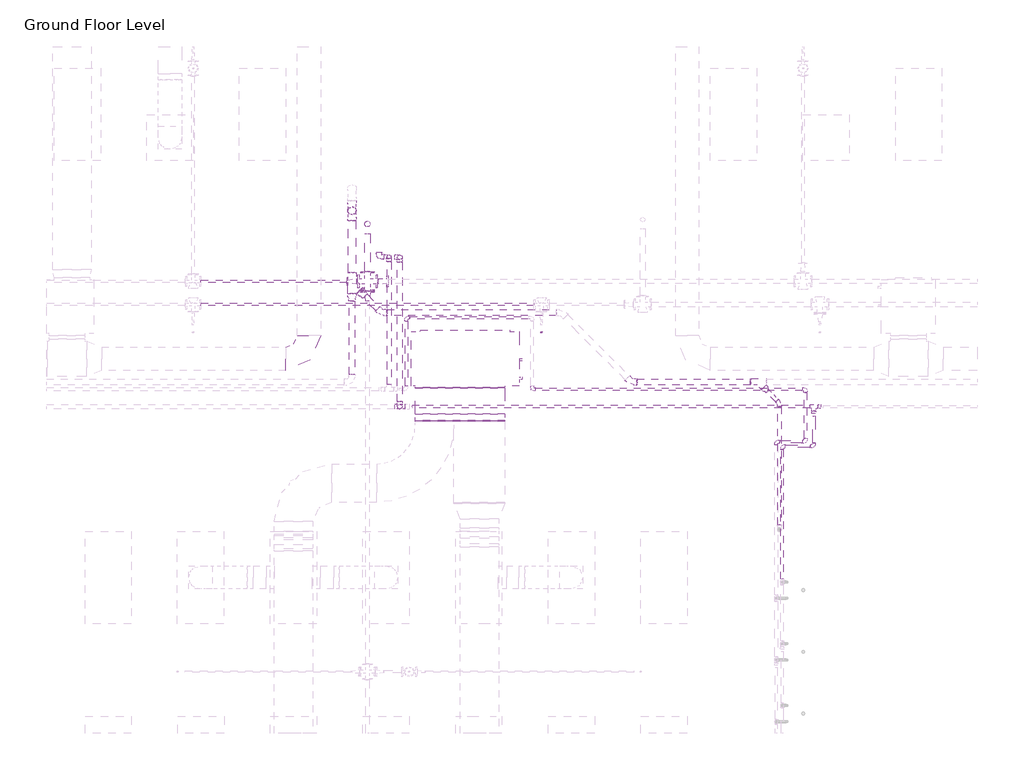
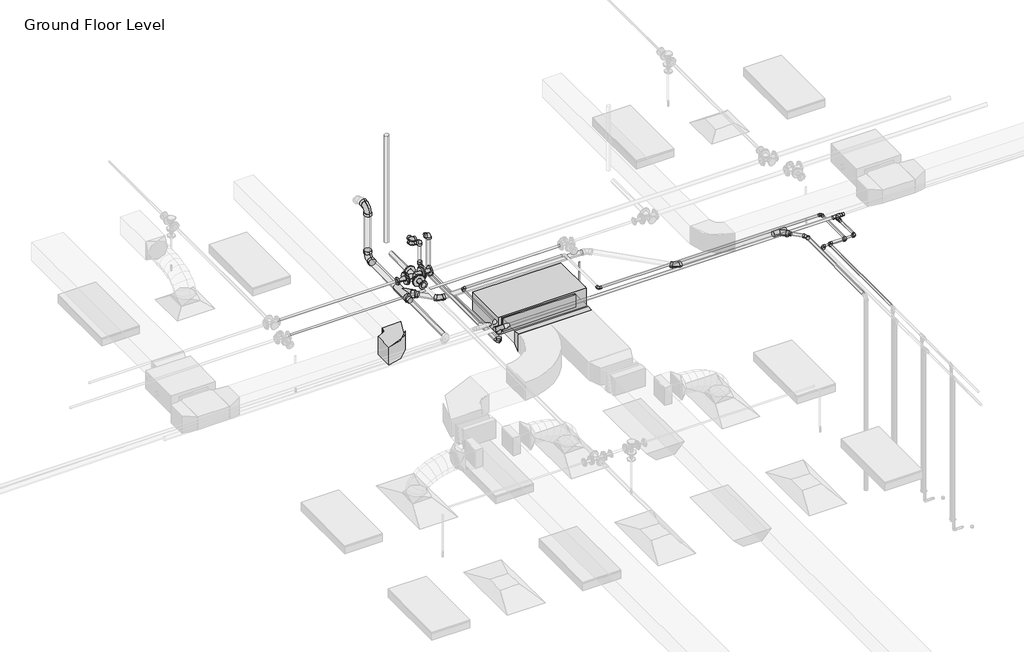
# One storey, part 51 of 68: 32 pipe fittings, 28 pipe segments, 3 duct fittings, 2 duct segments, 1 fire suppression terminal, 1 proxy.
"""IFC4 building model written with IfcOpenShell, lengths in millimetres."""

from ifc_helpers import new_model, si_unit, point, frame, frame_2d, origin, place, context, project, spatial, polyline, circle_curve, trimmed, segment, composite_curve, outline, extrude, transform, mapped, element, save
from components import fcu_daikin_iu_5a1bd61d, m_rectangular_elbow_radius_1_w_618da153, m_rectangular_transition_angle_45_degree_2e6f116c, m_rectangular_transition_angle_45_degree_bb273bf1, m_sprinkler_pendent_15_mm_pendent_06fcbd8e, m_bend_pvc_sch_40_dwv_standard_9e3ead78, m_bend_pvc_sch_40_dwv_standard_3e306cb9, m_bend_pvc_sch_40_dwv_standard_bd716fa2, m_bend_pvc_sch_40_dwv_standard_fbb643c2, m_bend_pvc_sch_40_dwv_standard_bfb77a87, m_cross_flanged_cs_class_150_standard_72237f6b, m_reducer_flanged_cs_class_150_standard_50093ec8, m_reducer_flanged_cs_class_150_standard_fb6801e4, m_reducer_flanged_cs_class_150_standard_aac2962f, m_reducer_pvc_sch_40_dwv_standard_daff2b06, m_reducer_pvc_sch_40_dwv_standard_93e50943, m_tee_pvc_sch_40_standard_5dbb3026, m_tee_pvc_sch_40_standard_4c5b037c, standard_517a5a8d, standard_08ff6011, standard_d0d0b892, standard_cd25fed3, standard_57727813, standard_102e5625

model = new_model("IFC4")

# Units and contexts
model_context = context("Model", 3, world=origin())
ifc_project = project(units=[si_unit("LENGTHUNIT", "METRE", prefix="MILLI")], contexts=[model_context])

# Site, building, storey
site = spatial("IfcSite", under=ifc_project)
building = spatial("IfcBuilding", under=site)
storey = spatial("IfcBuildingStorey", under=building, Name="Ground Floor Level", Elevation=900.0)

# Proxy
placement = place(None, origin())
fcu_daikin_iu_shape = fcu_daikin_iu_5a1bd61d(model_context)
element("IfcBuildingElementProxy", 1, Name="FCU-DAIKIN IU : 12.9kW, 230V/50Hz/1Ph", ObjectType="FCU-DAIKIN IU : 12.9kW, 230V/50Hz/1Ph", at=placement, inside=storey, context=model_context, shape_type="MappedRepresentation", body=[
    mapped(fcu_daikin_iu_shape, transform((-4715.1910789, 14069.8153534, 3984.0925223), x_axis=(1.0, 0.0, 0.0), y_axis=(0.0, 1.0, 0.0), z_axis=(0.0, 0.0, 1.0))),
])

# Duct fittings
m_rectangular_elbow_radius_1_w_shape = m_rectangular_elbow_radius_1_w_618da153(model_context)
element("IfcDuctFitting", 2, ObjectType="M_Rectangular Elbow - Radius : 1 W", at=placement, inside=storey, context=model_context, shape_type="MappedRepresentation", body=[
    mapped(m_rectangular_elbow_radius_1_w_shape, transform((-6737.2327605, 14069.8153534, 4075.2872564), x_axis=(1.0, 0.0, 0.0), y_axis=(0.0, 1.0, 0.0), z_axis=(0.0, 0.0, 1.0))),
])
m_rectangular_transition_angle_45_degree_shape = m_rectangular_transition_angle_45_degree_2e6f116c(model_context)
element("IfcDuctFitting", 3, ObjectType="M_Rectangular Transition - Angle : 45 Degree", at=placement, inside=storey, context=model_context, shape_type="MappedRepresentation", body=[
    mapped(m_rectangular_transition_angle_45_degree_shape, transform((-4778.6910789, 13694.4153534, 4150.0050223), x_axis=(0.0, -1.0, 0.0), y_axis=(1.0, 0.0, 0.0), z_axis=(0.0, 0.0, 1.0))),
])
m_rectangular_transition_angle_45_degree_2_shape = m_rectangular_transition_angle_45_degree_bb273bf1(model_context)
element("IfcDuctFitting", 4, ObjectType="M_Rectangular Transition - Angle : 45 Degree", at=placement, inside=storey, context=model_context, shape_type="MappedRepresentation", body=[
    mapped(m_rectangular_transition_angle_45_degree_2_shape, transform((-4778.6910789, 13354.5699657, 4150.0028095), x_axis=(0.0, -0.9999999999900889, -4.452214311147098e-06), y_axis=(1.0, 0.0, 0.0), z_axis=(0.0, -4.452214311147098e-06, 0.9999999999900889))),
])

# Duct segments
element("IfcDuctSegment", 5, ObjectType="Radius Elbows / Taps", at=placement, inside=storey, context=model_context, shape_type="SweptSolid", body=[
    extrude(outline(polyline([(-5359.6910789, 13694.083399), (-4197.6910789, 13694.083399), (-4197.6910789, 13354.5699657), (-5359.6910789, 13354.5699657), (-5359.6910789, 13694.083399)])), frame((0.0, 0.0, 4043.0050223), z_axis=(0.0, 0.0, 1.0), x_axis=(1.0, 0.0, 0.0)), (0.0, 0.0, 1.0), 214.0),
])
element("IfcDuctSegment", 6, ObjectType="Radius Elbows / Taps", at=placement, inside=storey, context=model_context, shape_type="SweptSolid", body=[
    extrude(outline(polyline([(0.0, -1162.0), (0.0, 0.0), (9.0109299, 0.0), (9.0109299, -1162.0), (0.0, -1162.0)])), frame((-5359.6910789, 13259.4862791, 3957.1425391), z_axis=(0.0, -0.00047283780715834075, 0.9999998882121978), x_axis=(0.0, 0.9999998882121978, 0.00047283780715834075)), (0.0, 0.0, 1.0), 300.0),
])

# Fire suppression terminal
m_sprinkler_pendent_15_mm_pendent_shape = m_sprinkler_pendent_15_mm_pendent_06fcbd8e(model_context)
element("IfcFireSuppressionTerminal", 7, ObjectType="M_Sprinkler - Pendent : 15 mm Pendent", at=placement, inside=storey, context=model_context, shape_type="MappedRepresentation", body=[
    mapped(m_sprinkler_pendent_15_mm_pendent_shape, transform((-3723.9852405, 14413.1701264, 3650.0), x_axis=(1.0, 0.0, 0.0), y_axis=(0.0, 1.0, 0.0), z_axis=(0.0, 0.0, 1.0))),
])

# Pipe fittings
m_bend_pvc_sch_40_dwv_standard_shape = m_bend_pvc_sch_40_dwv_standard_9e3ead78(model_context)
element("IfcPipeFitting", 8, ObjectType="M_Bend - PVC - Sch 40 - DWV : Standard", at=placement, inside=storey, context=model_context, shape_type="MappedRepresentation", body=[
    mapped(m_bend_pvc_sch_40_dwv_standard_shape, transform((-2561.2921336, 13768.7316659, 4127.72349), x_axis=(0.7070931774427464, -0.7070575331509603, -0.009427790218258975), y_axis=(0.7070496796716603, 0.7071481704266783, -0.0047133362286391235), z_axis=(0.009999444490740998, -0.003333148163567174, 0.9999444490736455))),
])
m_bend_pvc_sch_40_dwv_standard_2_shape = m_bend_pvc_sch_40_dwv_standard_3e306cb9(model_context)
element("IfcPipeFitting", 9, ObjectType="M_Bend - PVC - Sch 40 - DWV : Standard", at=placement, inside=storey, context=model_context, shape_type="MappedRepresentation", body=[
    mapped(m_bend_pvc_sch_40_dwv_standard_2_shape, transform((-642.2357232, 13495.4654482, 4110.1731446), x_axis=(0.0, 0.9999500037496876, 0.009999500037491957), y_axis=(-0.9999912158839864, -4.191228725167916e-05, 0.004191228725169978), z_axis=(0.004191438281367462, -0.00999941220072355, 0.9999412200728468))),
])
m_bend_pvc_sch_40_dwv_standard_3_shape = m_bend_pvc_sch_40_dwv_standard_bd716fa2(model_context)
element("IfcPipeFitting", 10, ObjectType="M_Bend - PVC - Sch 40 - DWV : Standard", at=placement, inside=storey, context=model_context, shape_type="MappedRepresentation", body=[
    mapped(m_bend_pvc_sch_40_dwv_standard_3_shape, transform((-6179.1770144, 15988.8715849, 4179.1289206), x_axis=(0.0, 0.9999500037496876, 0.009999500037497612), y_axis=(0.0, -0.009999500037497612, 0.9999500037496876), z_axis=(1.0, 0.0, 0.0))),
])
m_bend_pvc_sch_40_dwv_standard_4_shape = m_bend_pvc_sch_40_dwv_standard_fbb643c2(model_context)
element("IfcPipeFitting", 11, ObjectType="M_Bend - PVC - Sch 40 - DWV : Standard", at=placement, inside=storey, context=model_context, shape_type="MappedRepresentation", body=[
    mapped(m_bend_pvc_sch_40_dwv_standard_4_shape, transform((-5796.171114, 14668.7334723, 4163.0722858), x_axis=(0.7069124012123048, -0.7071711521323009, -0.013557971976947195), y_axis=(0.7072304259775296, 0.7069828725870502, -0.0005851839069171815), z_axis=(0.009999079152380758, -0.00917493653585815, 0.999907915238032))),
])
m_bend_pvc_sch_40_dwv_standard_5_shape = m_bend_pvc_sch_40_dwv_standard_bfb77a87(model_context)
element("IfcPipeFitting", 12, ObjectType="M_Bend - PVC - Sch 40 - DWV : Standard", at=placement, inside=storey, context=model_context, shape_type="MappedRepresentation", body=[
    mapped(m_bend_pvc_sch_40_dwv_standard_5_shape, transform((-6179.1776394, 15988.874234, 5027.5258857), x_axis=(-4.882554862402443e-06, 2.069385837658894e-05, 0.9999999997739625), y_axis=(4.892659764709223e-08, 0.9999999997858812, -2.0693858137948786e-05), z_axis=(-0.9999999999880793, 4.8825558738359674e-08, -4.882555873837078e-06))),
])
m_cross_flanged_cs_class_150_standard_shape = m_cross_flanged_cs_class_150_standard_72237f6b(model_context)
element("IfcPipeFitting", 13, ObjectType="M_Cross - Flanged - CS - Class 150 : Standard", at=placement, inside=storey, context=model_context, shape_type="MappedRepresentation", body=[
    mapped(m_cross_flanged_cs_class_150_standard_shape, transform((-5978.130502, 15073.2009828, 4360.0), x_axis=(-1.0, 0.0, 0.0), y_axis=(0.0, -1.0, 0.0), z_axis=(0.0, 0.0, 1.0))),
])
m_reducer_flanged_cs_class_150_standard_shape = m_reducer_flanged_cs_class_150_standard_50093ec8(model_context)
element("IfcPipeFitting", 14, ObjectType="M_Reducer - Flanged - CS - Class 150 : Standard", at=placement, inside=storey, context=model_context, shape_type="MappedRepresentation", body=[
    mapped(m_reducer_flanged_cs_class_150_standard_shape, transform((-5851.130502, 15073.2009828, 4360.0), x_axis=(1.0, 0.0, 0.0), y_axis=(0.0, 1.0, 0.0), z_axis=(0.0, 0.0, 1.0))),
])
m_reducer_flanged_cs_class_150_standard_2_shape = m_reducer_flanged_cs_class_150_standard_fb6801e4(model_context)
element("IfcPipeFitting", 15, ObjectType="M_Reducer - Flanged - CS - Class 150 : Standard", at=placement, inside=storey, context=model_context, shape_type="MappedRepresentation", body=[
    mapped(m_reducer_flanged_cs_class_150_standard_2_shape, transform((-6105.130502, 15073.2009828, 4360.0), x_axis=(-1.0, 0.0, 0.0), y_axis=(0.0, -1.0, 0.0), z_axis=(0.0, 0.0, 1.0))),
])
m_reducer_flanged_cs_class_150_standard_3_shape = m_reducer_flanged_cs_class_150_standard_aac2962f(model_context)
element("IfcPipeFitting", 16, ObjectType="M_Reducer - Flanged - CS - Class 150 : Standard", at=placement, inside=storey, context=model_context, shape_type="MappedRepresentation", body=[
    mapped(m_reducer_flanged_cs_class_150_standard_3_shape, transform((-5978.130502, 14946.2009828, 4360.0), x_axis=(0.0, -1.0, 0.0), y_axis=(1.0, 0.0, 0.0), z_axis=(0.0, 0.0, 1.0))),
])
m_reducer_pvc_sch_40_dwv_standard_shape = m_reducer_pvc_sch_40_dwv_standard_daff2b06(model_context)
element("IfcPipeFitting", 17, ObjectType="M_Reducer - PVC - Sch 40 - DWV : Standard", at=placement, inside=storey, context=model_context, shape_type="MappedRepresentation", body=[
    mapped(m_reducer_pvc_sch_40_dwv_standard_shape, transform((-843.6840301, 13696.9036229, 4110.2439857), x_axis=(0.7070889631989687, -0.7070533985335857, -0.010034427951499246), y_axis=(0.707053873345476, 0.7071477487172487, -0.004108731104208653), z_axis=(0.010000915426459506, -0.004189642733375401, 0.9999412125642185))),
])
m_reducer_pvc_sch_40_dwv_standard_2_shape = m_reducer_pvc_sch_40_dwv_standard_93e50943(model_context)
element("IfcPipeFitting", 18, ObjectType="M_Reducer - PVC - Sch 40 - DWV : Standard", at=placement, inside=storey, context=model_context, shape_type="MappedRepresentation", body=[
    mapped(m_reducer_pvc_sch_40_dwv_standard_2_shape, transform((-6179.1770144, 14819.9179815, 4167.4393846), x_axis=(0.0, 0.9999500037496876, 0.009999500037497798), y_axis=(-1.0000000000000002, 0.0, 0.0), z_axis=(0.0, -0.009999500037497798, 0.9999500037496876))),
])
element("IfcPipeFitting", 19, ObjectType="M_Reducer - PVC - Sch 40 - DWV : Standard", at=placement, inside=storey, context=model_context, shape_type="MappedRepresentation", body=[
    mapped(m_reducer_pvc_sch_40_dwv_standard_2_shape, transform((-6010.7168995, 14883.3577879, 4167.1870895), x_axis=(-0.7069124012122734, 0.7071711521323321, 0.01355797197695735), y_axis=(-0.7072361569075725, -0.7069773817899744, -2.1519182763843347e-08), z_axis=(0.00958516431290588, -0.009588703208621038, 0.9999080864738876))),
])
m_tee_pvc_sch_40_standard_shape = m_tee_pvc_sch_40_standard_5dbb3026(model_context)
element("IfcPipeFitting", 20, ObjectType="M_Tee - PVC - Sch 40 : Standard", at=placement, inside=storey, context=model_context, shape_type="MappedRepresentation", body=[
    mapped(m_tee_pvc_sch_40_standard_shape, transform((-915.515686, 13768.7316659, 4111.2633618), x_axis=(-0.9999499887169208, 0.0, 0.010001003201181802), y_axis=(4.190063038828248e-05, 0.9999912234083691, 0.004189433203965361), z_axis=(-0.010000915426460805, 0.004189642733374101, -0.9999412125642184))),
])
m_tee_pvc_sch_40_standard_2_shape = m_tee_pvc_sch_40_standard_4c5b037c(model_context)
element("IfcPipeFitting", 21, ObjectType="M_Tee - PVC - Sch 40 : Standard", at=placement, inside=storey, context=model_context, shape_type="MappedRepresentation", body=[
    mapped(m_tee_pvc_sch_40_standard_2_shape, transform((-6179.1770144, 15051.7796868, 4169.7580016), x_axis=(0.0, 0.9999500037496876, 0.009999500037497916), y_axis=(-0.9999972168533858, -2.3591797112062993e-05, 0.0023591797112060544), z_axis=(0.0023592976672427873, -0.009999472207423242, 0.9999472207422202))),
])
standard_shape = standard_517a5a8d(model_context)
element("IfcPipeFitting", 22, ObjectType="M_Elbow - CPVC - Sch 40 : Standard", at=placement, inside=storey, context=model_context, shape_type="MappedRepresentation", body=[
    mapped(standard_shape, transform((-607.2327605, 12935.5128345, 4315.0), x_axis=(-1.0, 0.0, 0.0), y_axis=(0.0, -1.0, 0.0), z_axis=(0.0, 0.0, 1.0))),
])
element("IfcPipeFitting", 23, ObjectType="M_Elbow - CPVC - Sch 40 : Standard", at=placement, inside=storey, context=model_context, shape_type="MappedRepresentation", body=[
    mapped(standard_shape, transform((-197.2327605, 12935.5128345, 4315.0), x_axis=(1.0, 0.0, 0.0), y_axis=(0.0, 1.0, 0.0), z_axis=(0.0, 0.0, 1.0))),
])
element("IfcPipeFitting", 24, ObjectType="M_Elbow - CPVC - Sch 40 : Standard", at=placement, inside=storey, context=model_context, shape_type="MappedRepresentation", body=[
    mapped(standard_shape, transform((-304.0671674, 13675.2153534, 4250.0), x_axis=(0.0, 1.0, 0.0), y_axis=(-1.0, 0.0, 0.0), z_axis=(0.0, 0.0, 1.0))),
])
element("IfcPipeFitting", 25, ObjectType="M_Elbow - CPVC - Sch 40 : Standard", at=placement, inside=storey, context=model_context, shape_type="MappedRepresentation", body=[
    mapped(standard_shape, transform((-304.0671674, 12995.2153534, 4250.0), x_axis=(1.0, 0.0, 0.0), y_axis=(0.0, 1.0, 0.0), z_axis=(0.0, 0.0, 1.0))),
])
element("IfcPipeFitting", 26, ObjectType="M_Elbow - CPVC - Sch 40 : Standard", at=placement, inside=storey, context=model_context, shape_type="MappedRepresentation", body=[
    mapped(standard_shape, transform((-684.0671674, 12995.2153534, 4250.0), x_axis=(-1.0, 0.0, 0.0), y_axis=(0.0, -1.0, 0.0), z_axis=(0.0, 0.0, 1.0))),
])
element("IfcPipeFitting", 27, ObjectType="M_Elbow - CPVC - Sch 40 : Standard", at=placement, inside=storey, context=model_context, shape_type="MappedRepresentation", body=[
    mapped(standard_shape, transform((-5476.1871015, 14603.43487, 4250.0), x_axis=(-1.0, 0.0, 0.0), y_axis=(0.0, -1.0, 0.0), z_axis=(0.0, 0.0, 1.0))),
])
element("IfcPipeFitting", 28, ObjectType="M_Elbow - CPVC - Sch 40 : Standard", at=placement, inside=storey, context=model_context, shape_type="MappedRepresentation", body=[
    mapped(standard_shape, transform((-3846.4489567, 13675.2153534, 4250.0), x_axis=(0.0, -1.0, 0.0), y_axis=(1.0, 0.0, 0.0), z_axis=(0.0, 0.0, 1.0))),
])
standard_2_shape = standard_08ff6011(model_context)
element("IfcPipeFitting", 29, ObjectType="M_Tee - CPVC - Sch 40 : Standard", at=placement, inside=storey, context=model_context, shape_type="MappedRepresentation", body=[
    mapped(standard_2_shape, transform((-197.2327605, 13449.9865561, 4315.0), x_axis=(1.0, 0.0, 0.0), y_axis=(0.0, 1.0, 0.0), z_axis=(0.0, 0.0, 1.0))),
])
standard_3_shape = standard_d0d0b892(model_context)
element("IfcPipeFitting", 30, ObjectType="M_Coupling Reducing - CPVC - Sch 40 : Standard", at=placement, inside=storey, context=model_context, shape_type="MappedRepresentation", body=[
    mapped(standard_3_shape, transform((-143.2577605, 13449.9865561, 4315.0), x_axis=(1.0, 0.0, 0.0), y_axis=(0.0, 1.0, 0.0), z_axis=(0.0, 0.0, 1.0))),
])
element("IfcPipeFitting", 31, ObjectType="M_Coupling Reducing - CPVC - Sch 40 : Standard", at=placement, inside=storey, context=model_context, shape_type="MappedRepresentation", body=[
    mapped(standard_3_shape, transform((-197.2327605, 13396.0115561, 4315.0), x_axis=(0.0, -1.0, 0.0), y_axis=(1.0, 0.0, 0.0), z_axis=(0.0, 0.0, 1.0))),
])
standard_4_shape = standard_cd25fed3(model_context)
element("IfcPipeFitting", 32, ObjectType="M_Tee - CPVC - Sch 40 : Standard", at=placement, inside=storey, context=model_context, shape_type="MappedRepresentation", body=[
    mapped(standard_4_shape, transform((-5560.8713756, 13449.9865561, 4315.0), x_axis=(1.0, 0.0, 0.0), y_axis=(0.0, 0.0, 1.0), z_axis=(0.0, -1.0, 0.0))),
])
standard_5_shape = standard_57727813(model_context)
element("IfcPipeFitting", 33, ObjectType="M_Elbow - CPVC - Sch 40 : Standard", at=placement, inside=storey, context=model_context, shape_type="MappedRepresentation", body=[
    mapped(standard_5_shape, transform((-5560.8713756, 15385.5016509, 4719.8375), x_axis=(0.0, 0.0, 1.0), y_axis=(-0.997564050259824, 0.06975647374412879, 0.0), z_axis=(-0.06975647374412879, -0.997564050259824, 0.0))),
])
element("IfcPipeFitting", 34, ObjectType="M_Elbow - CPVC - Sch 40 : Standard", at=placement, inside=storey, context=model_context, shape_type="MappedRepresentation", body=[
    mapped(standard_5_shape, transform((-5831.0029399, 15389.9865561, 4719.8375), x_axis=(0.0, -1.0, 0.0), y_axis=(1.0, 0.0, 0.0), z_axis=(0.0, 0.0, 1.0))),
])
element("IfcPipeFitting", 35, ObjectType="M_Elbow - CPVC - Sch 40 : Standard", at=placement, inside=storey, context=model_context, shape_type="MappedRepresentation", body=[
    mapped(standard_5_shape, transform((-5560.8713756, 15385.5016509, 4090.0), x_axis=(0.0, 0.0, -1.0), y_axis=(0.0, -1.0, 0.0), z_axis=(-1.0, 0.0, 0.0))),
])
element("IfcPipeFitting", 36, ObjectType="M_Elbow - CPVC - Sch 40 : Standard", at=placement, inside=storey, context=model_context, shape_type="MappedRepresentation", body=[
    mapped(standard_5_shape, transform((-5560.8713756, 13449.9865561, 4090.0), x_axis=(0.0, 0.0, -1.0), y_axis=(0.0, 1.0, 0.0), z_axis=(1.0, 0.0, 0.0))),
])
standard_6_shape = standard_102e5625(model_context)
element("IfcPipeFitting", 37, ObjectType="M_Elbow - CPVC - Sch 40 : Standard", at=placement, inside=storey, context=model_context, shape_type="MappedRepresentation", body=[
    mapped(standard_6_shape, transform((-5698.3060147, 15389.9865561, 4250.0), x_axis=(0.0, 1.0, 0.0), y_axis=(0.0, 0.0, 1.0), z_axis=(1.0, 0.0, 0.0))),
])
element("IfcPipeFitting", 38, ObjectType="M_Elbow - CPVC - Sch 40 : Standard", at=placement, inside=storey, context=model_context, shape_type="MappedRepresentation", body=[
    mapped(standard_6_shape, transform((-5698.3060147, 15389.9865561, 4650.0), x_axis=(0.0, 0.0, 1.0), y_axis=(-1.0, 0.0, 0.0), z_axis=(0.0, -1.0, 0.0))),
])
element("IfcPipeFitting", 39, ObjectType="M_Elbow - CPVC - Sch 40 : Standard", at=placement, inside=storey, context=model_context, shape_type="MappedRepresentation", body=[
    mapped(standard_6_shape, transform((-5831.0029399, 15389.9865561, 4650.0), x_axis=(0.0, -1.0, 0.0), y_axis=(1.0, 0.0, 0.0), z_axis=(0.0, 0.0, 1.0))),
])

# Pipe segments
element("IfcPipeSegment", 40, ObjectType="CPVC", at=placement, inside=storey, context=model_context, shape_type="SweptSolid", body=[
    extrude(outline(composite_curve([segment(trimmed(circle_curve(frame_2d((4090.0, -5560.8713756)), 30.1625), [point((4090.0, -5591.0338756))], [point((4059.8375, -5560.8713756))], False, "CARTESIAN"), True, "CONTINUOUS"), segment(trimmed(circle_curve(frame_2d((4090.0, -5560.8713756)), 30.1625), [point((4059.8375, -5560.8713756))], [point((4090.0, -5530.7088756))], False, "CARTESIAN"), True, "CONTINUOUS"), segment(trimmed(circle_curve(frame_2d((4090.0, -5560.8713756)), 30.1625), [point((4090.0, -5530.7088756))], [point((4120.1625, -5560.8713756))], False, "CARTESIAN"), True, "CONTINUOUS"), segment(trimmed(circle_curve(frame_2d((4090.0, -5560.8713756)), 30.1625), [point((4120.1625, -5560.8713756))], [point((4090.0, -5591.0338756))], False, "CARTESIAN"), True, "CONTINUOUS")], self_intersect=False)), frame((0.0, 13514.2803061, 0.0), z_axis=(0.0, 1.0, 0.0), x_axis=(0.0, 0.0, 1.0)), (0.0, 0.0, 1.0), 1806.9275947),
])
element("IfcPipeSegment", 41, ObjectType="CPVC", at=placement, inside=storey, context=model_context, shape_type="SweptSolid", body=[
    extrude(outline(composite_curve([segment(trimmed(circle_curve(frame_2d((4250.0, -5698.3060147)), 24.13), [point((4250.0, -5674.1760147))], [point((4274.13, -5698.3060147))], False, "CARTESIAN"), True, "CONTINUOUS"), segment(trimmed(circle_curve(frame_2d((4250.0, -5698.3060147)), 24.13), [point((4274.13, -5698.3060147))], [point((4250.0, -5722.4360147))], False, "CARTESIAN"), True, "CONTINUOUS"), segment(trimmed(circle_curve(frame_2d((4250.0, -5698.3060147)), 24.13), [point((4250.0, -5722.4360147))], [point((4225.87, -5698.3060147))], False, "CARTESIAN"), True, "CONTINUOUS"), segment(trimmed(circle_curve(frame_2d((4250.0, -5698.3060147)), 24.13), [point((4225.87, -5698.3060147))], [point((4250.0, -5674.1760147))], False, "CARTESIAN"), True, "CONTINUOUS")], self_intersect=False)), frame((0.0, 13733.9655534, 0.0), z_axis=(0.0, 1.0, 0.0), x_axis=(0.0, 0.0, 1.0)), (0.0, 0.0, 1.0), 1593.3020527),
])
element("IfcPipeSegment", 42, ObjectType="CPVC", at=placement, inside=storey, context=model_context, shape_type="SweptSolid", body=[
    extrude(outline(composite_curve([segment(trimmed(circle_curve(frame_2d((4315.0, -607.2327605)), 16.7005), [point((4315.0, -590.5322605))], [point((4331.7005, -607.2327605))], False, "CARTESIAN"), True, "CONTINUOUS"), segment(trimmed(circle_curve(frame_2d((4315.0, -607.2327605)), 16.7005), [point((4331.7005, -607.2327605))], [point((4315.0, -623.9332605))], False, "CARTESIAN"), True, "CONTINUOUS"), segment(trimmed(circle_curve(frame_2d((4315.0, -607.2327605)), 16.7005), [point((4315.0, -623.9332605))], [point((4298.2995, -607.2327605))], False, "CARTESIAN"), True, "CONTINUOUS"), segment(trimmed(circle_curve(frame_2d((4315.0, -607.2327605)), 16.7005), [point((4298.2995, -607.2327605))], [point((4315.0, -590.5322605))], False, "CARTESIAN"), True, "CONTINUOUS")], self_intersect=False)), frame((0.0, 11215.2130345, 0.0), z_axis=(0.0, 1.0, 0.0), x_axis=(0.0, 0.0, 1.0)), (0.0, 0.0, 1.0), 1677.03725),
])
element("IfcPipeSegment", 43, ObjectType="CPVC", at=placement, inside=storey, context=model_context, shape_type="SweptSolid", body=[
    extrude(outline(composite_curve([segment(trimmed(circle_curve(frame_2d((12935.5128345, 4315.0)), 16.7005), [point((12918.8123345, 4315.0))], [point((12935.5128345, 4331.7005))], False, "CARTESIAN"), True, "CONTINUOUS"), segment(trimmed(circle_curve(frame_2d((12935.5128345, 4315.0)), 16.7005), [point((12935.5128345, 4331.7005))], [point((12952.2133345, 4315.0))], False, "CARTESIAN"), True, "CONTINUOUS"), segment(trimmed(circle_curve(frame_2d((12935.5128345, 4315.0)), 16.7005), [point((12952.2133345, 4315.0))], [point((12935.5128345, 4298.2995))], False, "CARTESIAN"), True, "CONTINUOUS"), segment(trimmed(circle_curve(frame_2d((12935.5128345, 4315.0)), 16.7005), [point((12935.5128345, 4298.2995))], [point((12918.8123345, 4315.0))], False, "CARTESIAN"), True, "CONTINUOUS")], self_intersect=False)), frame((-563.9702105, 0.0, 0.0), z_axis=(1.0, 0.0, 0.0), x_axis=(0.0, 1.0, 0.0)), (0.0, 0.0, 1.0), 323.4749),
])
element("IfcPipeSegment", 44, ObjectType="CPVC", at=placement, inside=storey, context=model_context, shape_type="SweptSolid", body=[
    extrude(outline(composite_curve([segment(trimmed(circle_curve(frame_2d((4315.0, -197.2327605)), 16.7005), [point((4315.0, -180.5322605))], [point((4331.7005, -197.2327605))], False, "CARTESIAN"), True, "CONTINUOUS"), segment(trimmed(circle_curve(frame_2d((4315.0, -197.2327605)), 16.7005), [point((4331.7005, -197.2327605))], [point((4315.0, -213.9332605))], False, "CARTESIAN"), True, "CONTINUOUS"), segment(trimmed(circle_curve(frame_2d((4315.0, -197.2327605)), 16.7005), [point((4315.0, -213.9332605))], [point((4298.2995, -197.2327605))], False, "CARTESIAN"), True, "CONTINUOUS"), segment(trimmed(circle_curve(frame_2d((4315.0, -197.2327605)), 16.7005), [point((4298.2995, -197.2327605))], [point((4315.0, -180.5322605))], False, "CARTESIAN"), True, "CONTINUOUS")], self_intersect=False)), frame((0.0, 12978.7753845, 0.0), z_axis=(0.0, 1.0, 0.0), x_axis=(0.0, 0.0, 1.0)), (0.0, 0.0, 1.0), 351.1172966),
])
element("IfcPipeSegment", 45, ObjectType="CPVC", at=placement, inside=storey, context=model_context, shape_type="SweptSolid", body=[
    extrude(outline(composite_curve([segment(trimmed(circle_curve(frame_2d((13449.9865561, 4315.0)), 21.082), [point((13471.0685561, 4315.0))], [point((13449.9865561, 4293.918))], False, "CARTESIAN"), True, "CONTINUOUS"), segment(trimmed(circle_curve(frame_2d((13449.9865561, 4315.0)), 21.082), [point((13449.9865561, 4293.918))], [point((13428.9045561, 4315.0))], False, "CARTESIAN"), True, "CONTINUOUS"), segment(trimmed(circle_curve(frame_2d((13449.9865561, 4315.0)), 21.082), [point((13428.9045561, 4315.0))], [point((13449.9865561, 4336.082))], False, "CARTESIAN"), True, "CONTINUOUS"), segment(trimmed(circle_curve(frame_2d((13449.9865561, 4315.0)), 21.082), [point((13449.9865561, 4336.082))], [point((13471.0685561, 4315.0))], False, "CARTESIAN"), True, "CONTINUOUS")], self_intersect=False)), frame((-5401.6556136, 0.0, 0.0), z_axis=(1.0, 0.0, 0.0), x_axis=(0.0, 1.0, 0.0)), (0.0, 0.0, 1.0), 5150.4478531),
])
element("IfcPipeSegment", 46, ObjectType="CPVC", at=placement, inside=storey, context=model_context, shape_type="SweptSolid", body=[
    extrude(outline(composite_curve([segment(trimmed(circle_curve(frame_2d((-5698.3060147, 15389.9865561)), 24.13), [point((-5722.4360147, 15389.9865561))], [point((-5698.3060147, 15414.1165561))], False, "CARTESIAN"), True, "CONTINUOUS"), segment(trimmed(circle_curve(frame_2d((-5698.3060147, 15389.9865561)), 24.13), [point((-5698.3060147, 15414.1165561))], [point((-5674.1760147, 15389.9865561))], False, "CARTESIAN"), True, "CONTINUOUS"), segment(trimmed(circle_curve(frame_2d((-5698.3060147, 15389.9865561)), 24.13), [point((-5674.1760147, 15389.9865561))], [point((-5698.3060147, 15365.8565561))], False, "CARTESIAN"), True, "CONTINUOUS"), segment(trimmed(circle_curve(frame_2d((-5698.3060147, 15389.9865561)), 24.13), [point((-5698.3060147, 15365.8565561))], [point((-5722.4360147, 15389.9865561))], False, "CARTESIAN"), True, "CONTINUOUS")], self_intersect=False)), frame((0.0, 0.0, 4312.71895), z_axis=(0.0, 0.0, 1.0), x_axis=(1.0, 0.0, 0.0)), (0.0, 0.0, 1.0), 274.5621),
])
element("IfcPipeSegment", 47, ObjectType="CPVC", at=placement, inside=storey, context=model_context, shape_type="SweptSolid", body=[
    extrude(outline(composite_curve([segment(trimmed(circle_curve(frame_2d((-5560.8713756, 15385.5016509)), 30.1625), [point((-5591.0338756, 15385.5016509))], [point((-5560.8713756, 15415.6641509))], False, "CARTESIAN"), True, "CONTINUOUS"), segment(trimmed(circle_curve(frame_2d((-5560.8713756, 15385.5016509)), 30.1625), [point((-5560.8713756, 15415.6641509))], [point((-5530.7088756, 15385.5016509))], False, "CARTESIAN"), True, "CONTINUOUS"), segment(trimmed(circle_curve(frame_2d((-5560.8713756, 15385.5016509)), 30.1625), [point((-5530.7088756, 15385.5016509))], [point((-5560.8713756, 15355.3391509))], False, "CARTESIAN"), True, "CONTINUOUS"), segment(trimmed(circle_curve(frame_2d((-5560.8713756, 15385.5016509)), 30.1625), [point((-5560.8713756, 15355.3391509))], [point((-5591.0338756, 15385.5016509))], False, "CARTESIAN"), True, "CONTINUOUS")], self_intersect=False)), frame((0.0, 0.0, 4154.29375), z_axis=(0.0, 0.0, 1.0), x_axis=(1.0, 0.0, 0.0)), (0.0, 0.0, 1.0), 501.25),
])
element("IfcPipeSegment", 48, ObjectType="CPVC", at=placement, inside=storey, context=model_context, shape_type="SweptSolid", body=[
    extrude(outline(composite_curve([segment(trimmed(circle_curve(frame_2d((4250.0, -304.0671674)), 16.7005), [point((4250.0, -320.7676674))], [point((4233.2995, -304.0671674))], False, "CARTESIAN"), True, "CONTINUOUS"), segment(trimmed(circle_curve(frame_2d((4250.0, -304.0671674)), 16.7005), [point((4233.2995, -304.0671674))], [point((4250.0, -287.3666674))], False, "CARTESIAN"), True, "CONTINUOUS"), segment(trimmed(circle_curve(frame_2d((4250.0, -304.0671674)), 16.7005), [point((4250.0, -287.3666674))], [point((4266.7005, -304.0671674))], False, "CARTESIAN"), True, "CONTINUOUS"), segment(trimmed(circle_curve(frame_2d((4250.0, -304.0671674)), 16.7005), [point((4266.7005, -304.0671674))], [point((4250.0, -320.7676674))], False, "CARTESIAN"), True, "CONTINUOUS")], self_intersect=False)), frame((0.0, 13038.4779034, 0.0), z_axis=(0.0, 1.0, 0.0), x_axis=(0.0, 0.0, 1.0)), (0.0, 0.0, 1.0), 593.4749),
])
element("IfcPipeSegment", 49, ObjectType="CPVC", at=placement, inside=storey, context=model_context, shape_type="SweptSolid", body=[
    extrude(outline(composite_curve([segment(trimmed(circle_curve(frame_2d((12995.2153534, 4250.0)), 16.7005), [point((13011.9158534, 4250.0))], [point((12995.2153534, 4233.2995))], False, "CARTESIAN"), True, "CONTINUOUS"), segment(trimmed(circle_curve(frame_2d((12995.2153534, 4250.0)), 16.7005), [point((12995.2153534, 4233.2995))], [point((12978.5148534, 4250.0))], False, "CARTESIAN"), True, "CONTINUOUS"), segment(trimmed(circle_curve(frame_2d((12995.2153534, 4250.0)), 16.7005), [point((12978.5148534, 4250.0))], [point((12995.2153534, 4266.7005))], False, "CARTESIAN"), True, "CONTINUOUS"), segment(trimmed(circle_curve(frame_2d((12995.2153534, 4250.0)), 16.7005), [point((12995.2153534, 4266.7005))], [point((13011.9158534, 4250.0))], False, "CARTESIAN"), True, "CONTINUOUS")], self_intersect=False)), frame((-640.8046174, 0.0, 0.0), z_axis=(1.0, 0.0, 0.0), x_axis=(0.0, 1.0, 0.0)), (0.0, 0.0, 1.0), 293.4749),
])
element("IfcPipeSegment", 50, ObjectType="CPVC", at=placement, inside=storey, context=model_context, shape_type="SweptSolid", body=[
    extrude(outline(composite_curve([segment(trimmed(circle_curve(frame_2d((4250.0, -5476.1871015)), 16.7005), [point((4250.0, -5459.4866015))], [point((4266.7005, -5476.1871015))], False, "CARTESIAN"), True, "CONTINUOUS"), segment(trimmed(circle_curve(frame_2d((4250.0, -5476.1871015)), 16.7005), [point((4266.7005, -5476.1871015))], [point((4250.0, -5492.8876015))], False, "CARTESIAN"), True, "CONTINUOUS"), segment(trimmed(circle_curve(frame_2d((4250.0, -5476.1871015)), 16.7005), [point((4250.0, -5492.8876015))], [point((4233.2995, -5476.1871015))], False, "CARTESIAN"), True, "CONTINUOUS"), segment(trimmed(circle_curve(frame_2d((4250.0, -5476.1871015)), 16.7005), [point((4233.2995, -5476.1871015))], [point((4250.0, -5459.4866015))], False, "CARTESIAN"), True, "CONTINUOUS")], self_intersect=False)), frame((0.0, 13718.4779034, 0.0), z_axis=(0.0, 1.0, 0.0), x_axis=(0.0, 0.0, 1.0)), (0.0, 0.0, 1.0), 841.6944166),
])
element("IfcPipeSegment", 51, ObjectType="CPVC", at=placement, inside=storey, context=model_context, shape_type="SweptSolid", body=[
    extrude(outline(composite_curve([segment(trimmed(circle_curve(frame_2d((14603.43487, 4250.0)), 16.7005), [point((14620.13537, 4250.0))], [point((14603.43487, 4233.2995))], False, "CARTESIAN"), True, "CONTINUOUS"), segment(trimmed(circle_curve(frame_2d((14603.43487, 4250.0)), 16.7005), [point((14603.43487, 4233.2995))], [point((14586.73437, 4250.0))], False, "CARTESIAN"), True, "CONTINUOUS"), segment(trimmed(circle_curve(frame_2d((14603.43487, 4250.0)), 16.7005), [point((14586.73437, 4250.0))], [point((14603.43487, 4266.7005))], False, "CARTESIAN"), True, "CONTINUOUS"), segment(trimmed(circle_curve(frame_2d((14603.43487, 4250.0)), 16.7005), [point((14603.43487, 4266.7005))], [point((14620.13537, 4250.0))], False, "CARTESIAN"), True, "CONTINUOUS")], self_intersect=False)), frame((-5432.9245515, 0.0, 0.0), z_axis=(1.0, 0.0, 0.0), x_axis=(0.0, 1.0, 0.0)), (0.0, 0.0, 1.0), 1543.2130448),
])
element("IfcPipeSegment", 52, ObjectType="CPVC", at=placement, inside=storey, context=model_context, shape_type="SweptSolid", body=[
    extrude(outline(composite_curve([segment(trimmed(circle_curve(frame_2d((13675.2153534, 4250.0)), 16.7005), [point((13691.9158534, 4250.0))], [point((13675.2153534, 4233.2995))], False, "CARTESIAN"), True, "CONTINUOUS"), segment(trimmed(circle_curve(frame_2d((13675.2153534, 4250.0)), 16.7005), [point((13675.2153534, 4233.2995))], [point((13658.5148534, 4250.0))], False, "CARTESIAN"), True, "CONTINUOUS"), segment(trimmed(circle_curve(frame_2d((13675.2153534, 4250.0)), 16.7005), [point((13658.5148534, 4250.0))], [point((13675.2153534, 4266.7005))], False, "CARTESIAN"), True, "CONTINUOUS"), segment(trimmed(circle_curve(frame_2d((13675.2153534, 4250.0)), 16.7005), [point((13675.2153534, 4266.7005))], [point((13691.9158534, 4250.0))], False, "CARTESIAN"), True, "CONTINUOUS")], self_intersect=False)), frame((-3803.1864067, 0.0, 0.0), z_axis=(1.0, 0.0, 0.0), x_axis=(0.0, 1.0, 0.0)), (0.0, 0.0, 1.0), 3455.8566893),
])
element("IfcPipeSegment", 53, ObjectType="CPVC", at=placement, inside=storey, context=model_context, shape_type="SweptSolid", body=[
    extrude(outline(composite_curve([segment(trimmed(circle_curve(frame_2d((-5560.8713756, 13449.9865561)), 30.1625), [point((-5530.7088756, 13449.9865561))], [point((-5560.8713756, 13419.8240561))], False, "CARTESIAN"), True, "CONTINUOUS"), segment(trimmed(circle_curve(frame_2d((-5560.8713756, 13449.9865561)), 30.1625), [point((-5560.8713756, 13419.8240561))], [point((-5591.0338756, 13449.9865561))], False, "CARTESIAN"), True, "CONTINUOUS"), segment(trimmed(circle_curve(frame_2d((-5560.8713756, 13449.9865561)), 30.1625), [point((-5591.0338756, 13449.9865561))], [point((-5560.8713756, 13480.1490561))], False, "CARTESIAN"), True, "CONTINUOUS"), segment(trimmed(circle_curve(frame_2d((-5560.8713756, 13449.9865561)), 30.1625), [point((-5560.8713756, 13480.1490561))], [point((-5530.7088756, 13449.9865561))], False, "CARTESIAN"), True, "CONTINUOUS")], self_intersect=False)), frame((0.0, 0.0, 4154.29375), z_axis=(0.0, 0.0, 1.0), x_axis=(1.0, 0.0, 0.0)), (0.0, 0.0, 1.0), 94.03125),
])
element("IfcPipeSegment", 54, ObjectType="PVC - DWV", at=placement, inside=storey, context=model_context, shape_type="SweptSolid", body=[
    extrude(outline(composite_curve([segment(trimmed(circle_curve(frame_2d((0.0, 50.7999999)), 50.8), [point((50.8, 50.7999999))], [point((0.0, 0.0))], False, "CARTESIAN"), True, "CONTINUOUS"), segment(trimmed(circle_curve(frame_2d((0.0, 50.7999999)), 50.8), [point((0.0, 0.0))], [point((-50.8, 50.7999999))], False, "CARTESIAN"), True, "CONTINUOUS"), segment(trimmed(circle_curve(frame_2d((0.0, 50.7999999)), 50.8), [point((-50.8, 50.7999999))], [point((0.0, 101.5999999))], False, "CARTESIAN"), True, "CONTINUOUS"), segment(trimmed(circle_curve(frame_2d((0.0, 50.7999999)), 50.8), [point((0.0, 101.5999999))], [point((50.8, 50.7999999))], False, "CARTESIAN"), True, "CONTINUOUS")], self_intersect=False)), frame((-6179.1770144, 15188.6920457, 4221.9296651), z_axis=(0.0, 0.9999500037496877, 0.009999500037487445), x_axis=(1.0, 0.0, 0.0)), (0.0, 0.0, 1.0), 671.6974847),
])
element("IfcPipeSegment", 55, ObjectType="PVC - DWV", at=placement, inside=storey, context=model_context, shape_type="SweptSolid", body=[
    extrude(outline(composite_curve([segment(trimmed(circle_curve(frame_2d((-6179.1770144, 15988.8715849)), 50.8), [point((-6229.9770144, 15988.8715849))], [point((-6179.1770144, 16039.6715849))], False, "CARTESIAN"), True, "CONTINUOUS"), segment(trimmed(circle_curve(frame_2d((-6179.1770144, 15988.8715849)), 50.8), [point((-6179.1770144, 16039.6715849))], [point((-6128.3770144, 15988.8715849))], False, "CARTESIAN"), True, "CONTINUOUS"), segment(trimmed(circle_curve(frame_2d((-6179.1770144, 15988.8715849)), 50.8), [point((-6128.3770144, 15988.8715849))], [point((-6179.1770144, 15938.0715849))], False, "CARTESIAN"), True, "CONTINUOUS"), segment(trimmed(circle_curve(frame_2d((-6179.1770144, 15988.8715849)), 50.8), [point((-6179.1770144, 15938.0715849))], [point((-6229.9770144, 15988.8715849))], False, "CARTESIAN"), True, "CONTINUOUS")], self_intersect=False)), frame((0.0, 0.0, 4307.1429831), z_axis=(0.0, 0.0, 1.0), x_axis=(1.0, 0.0, 0.0)), (0.0, 0.0, 1.0), 592.3688402),
])
element("IfcPipeSegment", 56, ObjectType="PVC - DWV", at=placement, inside=storey, context=model_context, shape_type="SweptSolid", body=[
    extrude(outline(composite_curve([segment(trimmed(circle_curve(frame_2d((0.0, 36.5125)), 36.5125), [point((0.0, 73.025))], [point((36.5125001, 36.5125))], False, "CARTESIAN"), True, "CONTINUOUS"), segment(trimmed(circle_curve(frame_2d((0.0, 36.5125)), 36.5125), [point((36.5125001, 36.5125))], [point((0.0, 0.0))], False, "CARTESIAN"), True, "CONTINUOUS"), segment(trimmed(circle_curve(frame_2d((0.0, 36.5125)), 36.5125), [point((0.0, 0.0))], [point((-36.5125, 36.5125))], False, "CARTESIAN"), True, "CONTINUOUS"), segment(trimmed(circle_curve(frame_2d((0.0, 36.5125)), 36.5125), [point((-36.5125, 36.5125))], [point((0.0, 73.025))], False, "CARTESIAN"), True, "CONTINUOUS")], self_intersect=False)), frame((-3534.8278242, 14632.2209723, 4140.4588529), z_axis=(-0.9999500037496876, 0.0, 0.009999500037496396), x_axis=(0.009999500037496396, 0.0, 0.9999500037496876)), (0.0, 0.0, 1.0), 2191.3922916),
])
element("IfcPipeSegment", 57, ObjectType="PVC - DWV", at=placement, inside=storey, context=model_context, shape_type="SweptSolid", body=[
    extrude(outline(composite_curve([segment(trimmed(circle_curve(frame_2d((0.0, 36.5125)), 36.5125), [point((36.509147, 37.0073089))], [point((0.4948088, 0.0033529))], False, "CARTESIAN"), True, "CONTINUOUS"), segment(trimmed(circle_curve(frame_2d((0.0, 36.5125)), 36.5125), [point((0.4948088, 0.0033529))], [point((-36.5091471, 36.0176911))], False, "CARTESIAN"), True, "CONTINUOUS"), segment(trimmed(circle_curve(frame_2d((0.0, 36.5125)), 36.5125), [point((-36.5091471, 36.0176911))], [point((-0.494809, 73.0216471))], False, "CARTESIAN"), True, "CONTINUOUS"), segment(trimmed(circle_curve(frame_2d((0.0, 36.5125)), 36.5125), [point((-0.494809, 73.0216471))], [point((36.509147, 37.0073089))], False, "CARTESIAN"), True, "CONTINUOUS")], self_intersect=False)), frame((-5845.7002686, 14717.5808626, 4200.5280038), z_axis=(-0.7069124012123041, 0.7071711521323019, 0.013557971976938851), x_axis=(0.7073011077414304, 0.7067825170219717, 0.013550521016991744)), (0.0, 0.0, 1.0), 233.4329268),
])
element("IfcPipeSegment", 58, ObjectType="PVC - DWV", at=placement, inside=storey, context=model_context, shape_type="SweptSolid", body=[
    extrude(outline(composite_curve([segment(trimmed(circle_curve(frame_2d((0.0, 36.5125)), 36.5125), [point((36.5125, 36.5125))], [point((0.0, 0.0))], False, "CARTESIAN"), True, "CONTINUOUS"), segment(trimmed(circle_curve(frame_2d((0.0, 36.5125)), 36.5125), [point((0.0, 0.0))], [point((-36.5125, 36.5125))], False, "CARTESIAN"), True, "CONTINUOUS"), segment(trimmed(circle_curve(frame_2d((0.0, 36.5125)), 36.5125), [point((-36.5125, 36.5125))], [point((0.0, 73.025))], False, "CARTESIAN"), True, "CONTINUOUS"), segment(trimmed(circle_curve(frame_2d((0.0, 36.5125)), 36.5125), [point((0.0, 73.025))], [point((36.5125, 36.5125))], False, "CARTESIAN"), True, "CONTINUOUS")], self_intersect=False)), frame((-6179.1770144, 13867.4488986, 4194.4290193), z_axis=(0.0, 0.9999500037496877, 0.009999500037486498), x_axis=(1.0, 0.0, 0.0)), (0.0, 0.0, 1.0), 952.1515801),
])
element("IfcPipeSegment", 59, ObjectType="PVC - DWV", at=placement, inside=storey, context=model_context, shape_type="SweptSolid", body=[
    extrude(outline(composite_curve([segment(trimmed(circle_curve(frame_2d((0.0, 24.13)), 24.13), [point((24.13, 24.13))], [point((0.0, 0.0))], False, "CARTESIAN"), True, "CONTINUOUS"), segment(trimmed(circle_curve(frame_2d((0.0, 24.13)), 24.13), [point((0.0, 0.0))], [point((-24.13, 24.13))], False, "CARTESIAN"), True, "CONTINUOUS"), segment(trimmed(circle_curve(frame_2d((0.0, 24.13)), 24.13), [point((-24.13, 24.13))], [point((0.0, 48.26))], False, "CARTESIAN"), True, "CONTINUOUS"), segment(trimmed(circle_curve(frame_2d((0.0, 24.13)), 24.13), [point((0.0, 48.26))], [point((24.13, 24.13))], False, "CARTESIAN"), True, "CONTINUOUS")], self_intersect=False)), frame((-642.2357232, 11917.2058139, 4118.5217547), z_axis=(0.0, 0.9999500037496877, 0.009999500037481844), x_axis=(1.0, 0.0, 0.0)), (0.0, 0.0, 1.0), 1532.0724454),
])
element("IfcPipeSegment", 60, ObjectType="PVC - DWV", at=placement, inside=storey, context=model_context, shape_type="SweptSolid", body=[
    extrude(outline(composite_curve([segment(trimmed(circle_curve(frame_2d((0.0, 24.13)), 24.13), [point((24.1287851, 24.3721308))], [point((0.2421308, 0.0012148))], False, "CARTESIAN"), True, "CONTINUOUS"), segment(trimmed(circle_curve(frame_2d((0.0, 24.13)), 24.13), [point((0.2421308, 0.0012148))], [point((-24.1287851, 23.8878693))], False, "CARTESIAN"), True, "CONTINUOUS"), segment(trimmed(circle_curve(frame_2d((0.0, 24.13)), 24.13), [point((-24.1287851, 23.8878693))], [point((-0.2421307, 48.2587851))], False, "CARTESIAN"), True, "CONTINUOUS"), segment(trimmed(circle_curve(frame_2d((0.0, 24.13)), 24.13), [point((-0.2421307, 48.2587851))], [point((24.1287851, 24.3721308))], False, "CARTESIAN"), True, "CONTINUOUS")], self_intersect=False)), frame((-674.7793513, 13527.6650235, 4134.7625475), z_axis=(-0.7070889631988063, 0.7070533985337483, 0.010034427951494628), x_axis=(0.7071245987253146, 0.707017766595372, 0.010033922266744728)), (0.0, 0.0, 1.0), 171.3992376),
])
element("IfcPipeSegment", 61, ObjectType="PVC - DWV", at=placement, inside=storey, context=model_context, shape_type="SweptSolid", body=[
    extrude(outline(composite_curve([segment(trimmed(circle_curve(frame_2d((0.0, -36.5125)), 36.5125), [point((0.0, -73.025))], [point((-36.5125, -36.5125))], False, "CARTESIAN"), True, "CONTINUOUS"), segment(trimmed(circle_curve(frame_2d((0.0, -36.5125)), 36.5125), [point((-36.5125, -36.5125))], [point((0.0, 0.0))], False, "CARTESIAN"), True, "CONTINUOUS"), segment(trimmed(circle_curve(frame_2d((0.0, -36.5125)), 36.5125), [point((0.0, 0.0))], [point((36.5125, -36.5125))], False, "CARTESIAN"), True, "CONTINUOUS"), segment(trimmed(circle_curve(frame_2d((0.0, -36.5125)), 36.5125), [point((36.5125, -36.5125))], [point((0.0, -73.025))], False, "CARTESIAN"), True, "CONTINUOUS")], self_intersect=False)), frame((-1017.0984673, 13805.2441659, 4112.2793423), z_axis=(-0.9999499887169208, 0.0, 0.010001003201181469), x_axis=(0.010001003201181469, 0.0, 0.9999499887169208)), (0.0, 0.0, 1.0), 1470.7787086),
])
element("IfcPipeSegment", 62, ObjectType="PVC - DWV", at=placement, inside=storey, context=model_context, shape_type="SweptSolid", body=[
    extrude(outline(composite_curve([segment(trimmed(circle_curve(frame_2d((0.0, -50.8)), 50.8), [point((-50.7949304, -51.5176696))], [point((-0.7176696, -0.0050696))], False, "CARTESIAN"), True, "CONTINUOUS"), segment(trimmed(circle_curve(frame_2d((0.0, -50.8)), 50.8), [point((-0.7176696, -0.0050696))], [point((50.7949303, -50.0823303))], False, "CARTESIAN"), True, "CONTINUOUS"), segment(trimmed(circle_curve(frame_2d((0.0, -50.8)), 50.8), [point((50.7949303, -50.0823303))], [point((0.7176697, -101.5949303))], False, "CARTESIAN"), True, "CONTINUOUS"), segment(trimmed(circle_curve(frame_2d((0.0, -50.8)), 50.8), [point((0.7176697, -101.5949303))], [point((-50.7949304, -51.5176696))], False, "CARTESIAN"), True, "CONTINUOUS")], self_intersect=False)), frame((-6077.4820144, 14951.1616267, 4117.6777138), z_axis=(-0.7074910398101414, 0.7065814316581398, 0.014110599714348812), x_axis=(0.7067223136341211, 0.7073500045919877, 0.014125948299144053)), (0.0, 0.0, 1.0), 6.3528264),
])
element("IfcPipeSegment", 63, ObjectType="Steel flanged", at=placement, inside=storey, context=model_context, shape_type="SweptSolid", body=[
    extrude(outline(composite_curve([segment(trimmed(circle_curve(frame_2d((-3723.9852405, 14413.1701264)), 10.668), [point((-3734.6532405, 14413.1701264))], [point((-3723.9852405, 14423.8381264))], False, "CARTESIAN"), True, "CONTINUOUS"), segment(trimmed(circle_curve(frame_2d((-3723.9852405, 14413.1701264)), 10.668), [point((-3723.9852405, 14423.8381264))], [point((-3713.3172405, 14413.1701264))], False, "CARTESIAN"), True, "CONTINUOUS"), segment(trimmed(circle_curve(frame_2d((-3723.9852405, 14413.1701264)), 10.668), [point((-3713.3172405, 14413.1701264))], [point((-3723.9852405, 14402.5021264))], False, "CARTESIAN"), True, "CONTINUOUS"), segment(trimmed(circle_curve(frame_2d((-3723.9852405, 14413.1701264)), 10.668), [point((-3723.9852405, 14402.5021264))], [point((-3734.6532405, 14413.1701264))], False, "CARTESIAN"), True, "CONTINUOUS")], self_intersect=False)), frame((0.0, 0.0, 3650.0), z_axis=(0.0, 0.0, 1.0), x_axis=(1.0, 0.0, 0.0)), (0.0, 0.0, 1.0), 548.0857504),
])
element("IfcPipeSegment", 64, ObjectType="Steel flanged", at=placement, inside=storey, context=model_context, shape_type="SweptSolid", body=[
    extrude(outline(composite_curve([segment(trimmed(circle_curve(frame_2d((14773.4681847, 4291.0943441)), 16.7005), [point((14756.7676847, 4291.0943441))], [point((14773.4681847, 4307.7948441))], False, "CARTESIAN"), True, "CONTINUOUS"), segment(trimmed(circle_curve(frame_2d((14773.4681847, 4291.0943441)), 16.7005), [point((14773.4681847, 4307.7948441))], [point((14790.1686847, 4291.0943441))], False, "CARTESIAN"), True, "CONTINUOUS"), segment(trimmed(circle_curve(frame_2d((14773.4681847, 4291.0943441)), 16.7005), [point((14790.1686847, 4291.0943441))], [point((14773.4681847, 4274.3938441))], False, "CARTESIAN"), True, "CONTINUOUS"), segment(trimmed(circle_curve(frame_2d((14773.4681847, 4291.0943441)), 16.7005), [point((14773.4681847, 4274.3938441))], [point((14756.7676847, 4291.0943441))], False, "CARTESIAN"), True, "CONTINUOUS")], self_intersect=False)), frame((-8136.5241668, 0.0, 0.0), z_axis=(1.0, 0.0, 0.0), x_axis=(0.0, 1.0, 0.0)), (0.0, 0.0, 1.0), 4311.8303326),
])
element("IfcPipeSegment", 65, ObjectType="Steel flanged", at=placement, inside=storey, context=model_context, shape_type="SweptSolid", body=[
    extrude(outline(composite_curve([segment(trimmed(circle_curve(frame_2d((4360.0, -5978.130502)), 36.5125), [point((4360.0, -5941.618002))], [point((4396.5125, -5978.130502))], False, "CARTESIAN"), True, "CONTINUOUS"), segment(trimmed(circle_curve(frame_2d((4360.0, -5978.130502)), 36.5125), [point((4396.5125, -5978.130502))], [point((4360.0, -6014.643002))], False, "CARTESIAN"), True, "CONTINUOUS"), segment(trimmed(circle_curve(frame_2d((4360.0, -5978.130502)), 36.5125), [point((4360.0, -6014.643002))], [point((4323.4875, -5978.130502))], False, "CARTESIAN"), True, "CONTINUOUS"), segment(trimmed(circle_curve(frame_2d((4360.0, -5978.130502)), 36.5125), [point((4323.4875, -5978.130502))], [point((4360.0, -5941.618002))], False, "CARTESIAN"), True, "CONTINUOUS")], self_intersect=False)), frame((0.0, 15200.2009828, 0.0), z_axis=(0.0, 1.0, 0.0), x_axis=(0.0, 0.0, 1.0)), (0.0, 0.0, 1.0), 489.2995),
])
element("IfcPipeSegment", 66, ObjectType="Steel flanged", at=placement, inside=storey, context=model_context, shape_type="SweptSolid", body=[
    extrude(outline(composite_curve([segment(trimmed(circle_curve(frame_2d((-5978.130502, 15816.5004828)), 36.5125), [point((-6014.643002, 15816.5004828))], [point((-5978.130502, 15853.0129828))], False, "CARTESIAN"), True, "CONTINUOUS"), segment(trimmed(circle_curve(frame_2d((-5978.130502, 15816.5004828)), 36.5125), [point((-5978.130502, 15853.0129828))], [point((-5941.618002, 15816.5004828))], False, "CARTESIAN"), True, "CONTINUOUS"), segment(trimmed(circle_curve(frame_2d((-5978.130502, 15816.5004828)), 36.5125), [point((-5941.618002, 15816.5004828))], [point((-5978.130502, 15779.9879828))], False, "CARTESIAN"), True, "CONTINUOUS"), segment(trimmed(circle_curve(frame_2d((-5978.130502, 15816.5004828)), 36.5125), [point((-5978.130502, 15779.9879828))], [point((-6014.643002, 15816.5004828))], False, "CARTESIAN"), True, "CONTINUOUS")], self_intersect=False)), frame((0.0, 0.0, 4487.0), z_axis=(0.0, 0.0, 1.0), x_axis=(1.0, 0.0, 0.0)), (0.0, 0.0, 1.0), 1786.0),
])
element("IfcPipeSegment", 67, ObjectType="Steel flanged", at=placement, inside=storey, context=model_context, shape_type="SweptSolid", body=[
    extrude(outline(composite_curve([segment(trimmed(circle_curve(frame_2d((15073.2009828, 4360.0)), 16.7005), [point((15056.5004828, 4360.0))], [point((15073.2009828, 4376.7005))], False, "CARTESIAN"), True, "CONTINUOUS"), segment(trimmed(circle_curve(frame_2d((15073.2009828, 4360.0)), 16.7005), [point((15073.2009828, 4376.7005))], [point((15089.9014828, 4360.0))], False, "CARTESIAN"), True, "CONTINUOUS"), segment(trimmed(circle_curve(frame_2d((15073.2009828, 4360.0)), 16.7005), [point((15089.9014828, 4360.0))], [point((15073.2009828, 4343.2995))], False, "CARTESIAN"), True, "CONTINUOUS"), segment(trimmed(circle_curve(frame_2d((15073.2009828, 4360.0)), 16.7005), [point((15073.2009828, 4343.2995))], [point((15056.5004828, 4360.0))], False, "CARTESIAN"), True, "CONTINUOUS")], self_intersect=False)), frame((-8136.5241668, 0.0, 0.0), z_axis=(1.0, 0.0, 0.0), x_axis=(0.0, 1.0, 0.0)), (0.0, 0.0, 1.0), 1891.3936648),
])

save(model, "model.ifc")
